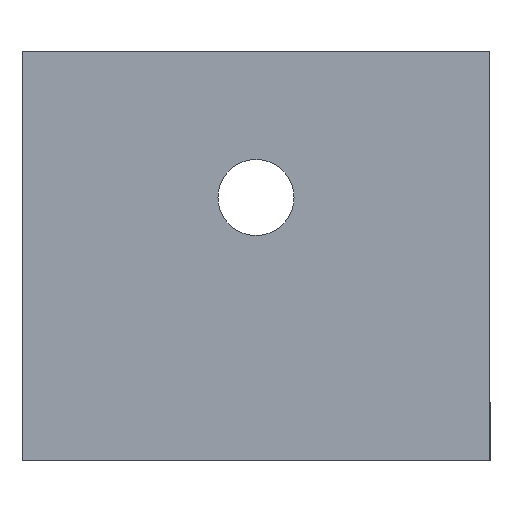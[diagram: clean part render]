
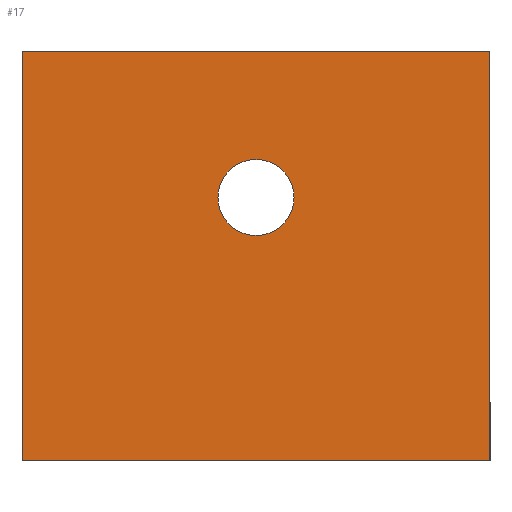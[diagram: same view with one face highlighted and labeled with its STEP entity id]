
A CAD part, left-side view. The second image highlights one B-rep face of the part: STEP entity #17.
In plain terms, the highlighted planar face has unit normal (-1, 0, 0).
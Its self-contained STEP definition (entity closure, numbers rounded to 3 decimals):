
#17 = ADVANCED_FACE('',(#18,#137),#32,.F.);
#18 = FACE_BOUND('',#19,.F.);
#19 = EDGE_LOOP('',(#20,#55,#83,#111));
#20 = ORIENTED_EDGE('',*,*,#21,.F.);
#21 = EDGE_CURVE('',#22,#24,#26,.T.);
#22 = VERTEX_POINT('',#23);
#23 = CARTESIAN_POINT('',(0.,0.,0.));
#24 = VERTEX_POINT('',#25);
#25 = CARTESIAN_POINT('',(0.,0.,35.));
#26 = SURFACE_CURVE('',#27,(#31,#43),.PCURVE_S1.);
#27 = LINE('',#28,#29);
#28 = CARTESIAN_POINT('',(0.,0.,0.));
#29 = VECTOR('',#30,1.);
#30 = DIRECTION('',(0.,0.,1.));
#31 = PCURVE('',#32,#37);
#32 = PLANE('',#33);
#33 = AXIS2_PLACEMENT_3D('',#34,#35,#36);
#34 = CARTESIAN_POINT('',(0.,0.,0.));
#35 = DIRECTION('',(1.,0.,0.));
#36 = DIRECTION('',(0.,0.,1.));
#37 = DEFINITIONAL_REPRESENTATION('',(#38),#42);
#38 = LINE('',#39,#40);
#39 = CARTESIAN_POINT('',(0.,0.));
#40 = VECTOR('',#41,1.);
#41 = DIRECTION('',(1.,0.));
#42 = ( GEOMETRIC_REPRESENTATION_CONTEXT(2) 
PARAMETRIC_REPRESENTATION_CONTEXT() REPRESENTATION_CONTEXT('2D SPACE',''
  ) );
#43 = PCURVE('',#44,#49);
#44 = PLANE('',#45);
#45 = AXIS2_PLACEMENT_3D('',#46,#47,#48);
#46 = CARTESIAN_POINT('',(0.,0.,0.));
#47 = DIRECTION('',(0.,1.,0.));
#48 = DIRECTION('',(0.,0.,1.));
#49 = DEFINITIONAL_REPRESENTATION('',(#50),#54);
#50 = LINE('',#51,#52);
#51 = CARTESIAN_POINT('',(0.,0.));
#52 = VECTOR('',#53,1.);
#53 = DIRECTION('',(1.,0.));
#54 = ( GEOMETRIC_REPRESENTATION_CONTEXT(2) 
PARAMETRIC_REPRESENTATION_CONTEXT() REPRESENTATION_CONTEXT('2D SPACE',''
  ) );
#55 = ORIENTED_EDGE('',*,*,#56,.T.);
#56 = EDGE_CURVE('',#22,#57,#59,.T.);
#57 = VERTEX_POINT('',#58);
#58 = CARTESIAN_POINT('',(0.,40.,0.));
#59 = SURFACE_CURVE('',#60,(#64,#71),.PCURVE_S1.);
#60 = LINE('',#61,#62);
#61 = CARTESIAN_POINT('',(0.,0.,0.));
#62 = VECTOR('',#63,1.);
#63 = DIRECTION('',(0.,1.,0.));
#64 = PCURVE('',#32,#65);
#65 = DEFINITIONAL_REPRESENTATION('',(#66),#70);
#66 = LINE('',#67,#68);
#67 = CARTESIAN_POINT('',(0.,0.));
#68 = VECTOR('',#69,1.);
#69 = DIRECTION('',(0.,-1.));
#70 = ( GEOMETRIC_REPRESENTATION_CONTEXT(2) 
PARAMETRIC_REPRESENTATION_CONTEXT() REPRESENTATION_CONTEXT('2D SPACE',''
  ) );
#71 = PCURVE('',#72,#77);
#72 = PLANE('',#73);
#73 = AXIS2_PLACEMENT_3D('',#74,#75,#76);
#74 = CARTESIAN_POINT('',(0.,0.,0.));
#75 = DIRECTION('',(0.,0.,1.));
#76 = DIRECTION('',(1.,0.,0.));
#77 = DEFINITIONAL_REPRESENTATION('',(#78),#82);
#78 = LINE('',#79,#80);
#79 = CARTESIAN_POINT('',(0.,0.));
#80 = VECTOR('',#81,1.);
#81 = DIRECTION('',(0.,1.));
#82 = ( GEOMETRIC_REPRESENTATION_CONTEXT(2) 
PARAMETRIC_REPRESENTATION_CONTEXT() REPRESENTATION_CONTEXT('2D SPACE',''
  ) );
#83 = ORIENTED_EDGE('',*,*,#84,.F.);
#84 = EDGE_CURVE('',#85,#57,#87,.T.);
#85 = VERTEX_POINT('',#86);
#86 = CARTESIAN_POINT('',(0.,40.,35.));
#87 = SURFACE_CURVE('',#88,(#92,#99),.PCURVE_S1.);
#88 = LINE('',#89,#90);
#89 = CARTESIAN_POINT('',(0.,40.,35.));
#90 = VECTOR('',#91,1.);
#91 = DIRECTION('',(0.,0.,-1.));
#92 = PCURVE('',#32,#93);
#93 = DEFINITIONAL_REPRESENTATION('',(#94),#98);
#94 = LINE('',#95,#96);
#95 = CARTESIAN_POINT('',(35.,-40.));
#96 = VECTOR('',#97,1.);
#97 = DIRECTION('',(-1.,0.));
#98 = ( GEOMETRIC_REPRESENTATION_CONTEXT(2) 
PARAMETRIC_REPRESENTATION_CONTEXT() REPRESENTATION_CONTEXT('2D SPACE',''
  ) );
#99 = PCURVE('',#100,#105);
#100 = PLANE('',#101);
#101 = AXIS2_PLACEMENT_3D('',#102,#103,#104);
#102 = CARTESIAN_POINT('',(0.,40.,0.));
#103 = DIRECTION('',(0.,1.,0.));
#104 = DIRECTION('',(0.,0.,1.));
#105 = DEFINITIONAL_REPRESENTATION('',(#106),#110);
#106 = LINE('',#107,#108);
#107 = CARTESIAN_POINT('',(35.,0.));
#108 = VECTOR('',#109,1.);
#109 = DIRECTION('',(-1.,0.));
#110 = ( GEOMETRIC_REPRESENTATION_CONTEXT(2) 
PARAMETRIC_REPRESENTATION_CONTEXT() REPRESENTATION_CONTEXT('2D SPACE',''
  ) );
#111 = ORIENTED_EDGE('',*,*,#112,.F.);
#112 = EDGE_CURVE('',#24,#85,#113,.T.);
#113 = SURFACE_CURVE('',#114,(#118,#125),.PCURVE_S1.);
#114 = LINE('',#115,#116);
#115 = CARTESIAN_POINT('',(0.,0.,35.));
#116 = VECTOR('',#117,1.);
#117 = DIRECTION('',(0.,1.,0.));
#118 = PCURVE('',#32,#119);
#119 = DEFINITIONAL_REPRESENTATION('',(#120),#124);
#120 = LINE('',#121,#122);
#121 = CARTESIAN_POINT('',(35.,0.));
#122 = VECTOR('',#123,1.);
#123 = DIRECTION('',(0.,-1.));
#124 = ( GEOMETRIC_REPRESENTATION_CONTEXT(2) 
PARAMETRIC_REPRESENTATION_CONTEXT() REPRESENTATION_CONTEXT('2D SPACE',''
  ) );
#125 = PCURVE('',#126,#131);
#126 = PLANE('',#127);
#127 = AXIS2_PLACEMENT_3D('',#128,#129,#130);
#128 = CARTESIAN_POINT('',(0.,0.,35.));
#129 = DIRECTION('',(0.,0.,1.));
#130 = DIRECTION('',(1.,0.,0.));
#131 = DEFINITIONAL_REPRESENTATION('',(#132),#136);
#132 = LINE('',#133,#134);
#133 = CARTESIAN_POINT('',(0.,0.));
#134 = VECTOR('',#135,1.);
#135 = DIRECTION('',(0.,1.));
#136 = ( GEOMETRIC_REPRESENTATION_CONTEXT(2) 
PARAMETRIC_REPRESENTATION_CONTEXT() REPRESENTATION_CONTEXT('2D SPACE',''
  ) );
#137 = FACE_BOUND('',#138,.F.);
#138 = EDGE_LOOP('',(#139));
#139 = ORIENTED_EDGE('',*,*,#140,.F.);
#140 = EDGE_CURVE('',#141,#141,#143,.T.);
#141 = VERTEX_POINT('',#142);
#142 = CARTESIAN_POINT('',(0.,20.,25.75));
#143 = SURFACE_CURVE('',#144,(#149,#156),.PCURVE_S1.);
#144 = CIRCLE('',#145,3.25);
#145 = AXIS2_PLACEMENT_3D('',#146,#147,#148);
#146 = CARTESIAN_POINT('',(0.,20.,22.5));
#147 = DIRECTION('',(1.,0.,0.));
#148 = DIRECTION('',(-0.,0.,1.));
#149 = PCURVE('',#32,#150);
#150 = DEFINITIONAL_REPRESENTATION('',(#151),#155);
#151 = CIRCLE('',#152,3.25);
#152 = AXIS2_PLACEMENT_2D('',#153,#154);
#153 = CARTESIAN_POINT('',(22.5,-20.));
#154 = DIRECTION('',(1.,0.));
#155 = ( GEOMETRIC_REPRESENTATION_CONTEXT(2) 
PARAMETRIC_REPRESENTATION_CONTEXT() REPRESENTATION_CONTEXT('2D SPACE',''
  ) );
#156 = PCURVE('',#157,#162);
#157 = CYLINDRICAL_SURFACE('',#158,3.25);
#158 = AXIS2_PLACEMENT_3D('',#159,#160,#161);
#159 = CARTESIAN_POINT('',(-1.,20.,22.5));
#160 = DIRECTION('',(1.,0.,0.));
#161 = DIRECTION('',(-0.,0.,1.));
#162 = DEFINITIONAL_REPRESENTATION('',(#163),#167);
#163 = LINE('',#164,#165);
#164 = CARTESIAN_POINT('',(0.,1.));
#165 = VECTOR('',#166,1.);
#166 = DIRECTION('',(1.,0.));
#167 = ( GEOMETRIC_REPRESENTATION_CONTEXT(2) 
PARAMETRIC_REPRESENTATION_CONTEXT() REPRESENTATION_CONTEXT('2D SPACE',''
  ) );
